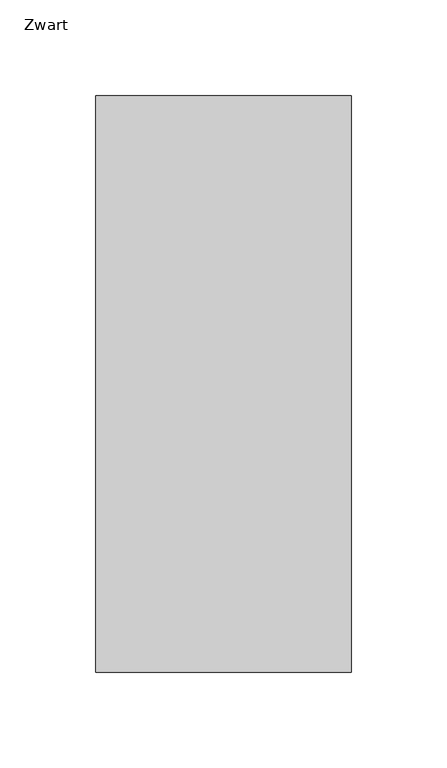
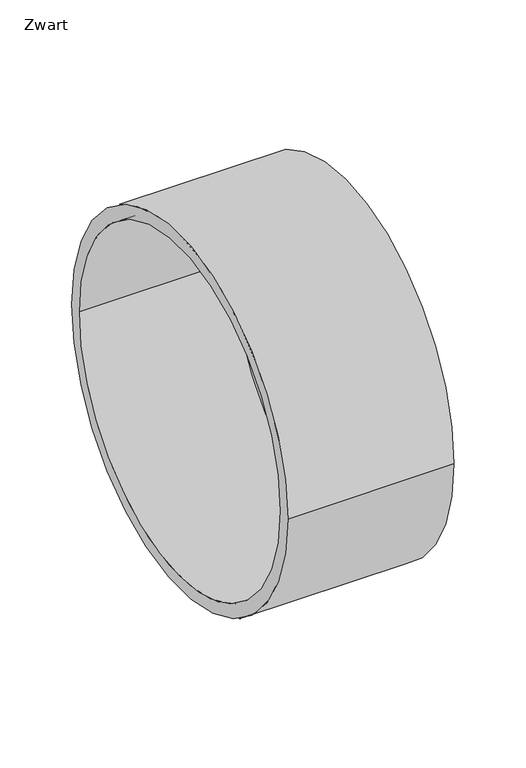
"""IFC4 building model written with IfcOpenShell, lengths in millimetres: pipe fitting geometry, NLRS_52_PIF_UN_Ultra Kyma afsluitkap LV_Dyka : Zwart."""

from ifc_helpers import new_model, si_unit, frame, origin, place, context, project, spatial, polyline, circle_curve, source, transform, mapped, element, save
from ifc_brep_helpers import plane_surface, cylinder_surface, revolved_surface, advanced_brep


def zwart_ccf00192(model_context):
    return source(origin(), model_context, "Body", "AdvancedBrep", [
        advanced_brep(
        [(0.0, -140.0, 0.0), (0.0, 140.0, 0.0), (-124.0, 140.0, 0.0), (-124.0, -140.0, 0.0), (10.0, -151.0, 0.0), (10.0, 151.0, 0.0), (-124.0, -151.0, 0.0), (-124.0, 151.0, 0.0)],
        [
            (0, 1, circle_curve(frame((0.0, 0.0, 0.0), z_axis=(-1.0, 0.0, 0.0), x_axis=(0.0, 1.0, 0.0)), 140.0)),
            (1, 0, circle_curve(frame((0.0, 0.0, 0.0), z_axis=(-1.0, 0.0, 0.0), x_axis=(0.0, 1.0, 0.0)), 140.0)),
            (1, 2),
            (2, 3, circle_curve(frame((-124.0, 0.0, 0.0), z_axis=(-1.0, 0.0, 0.0), x_axis=(0.0, 1.0, 0.0)), 140.0)),
            (3, 0),
            (3, 2, circle_curve(frame((-124.0, 0.0, 0.0), z_axis=(-1.0, 0.0, 0.0), x_axis=(0.0, 1.0, 0.0)), 140.0)),
            (4, 5, circle_curve(frame((10.0, 0.0, 0.0), z_axis=(1.0, 0.0, 0.0), x_axis=(0.0, 1.0, 0.0)), 151.0)),
            (5, 4, circle_curve(frame((10.0, 0.0, 0.0), z_axis=(1.0, 0.0, 0.0), x_axis=(0.0, 1.0, 0.0)), 151.0)),
            (6, 7, circle_curve(frame((-124.0, 0.0, 0.0), z_axis=(-1.0, 0.0, 0.0), x_axis=(0.0, 1.0, 0.0)), 151.0)),
            (7, 6, circle_curve(frame((-124.0, 0.0, 0.0), z_axis=(-1.0, 0.0, 0.0), x_axis=(0.0, 1.0, 0.0)), 151.0)),
            (4, 6),
            (7, 5),
        ],
        [
            plane_surface(frame((0.0, 140.0, 0.0), z_axis=(-1.0, 0.0, 0.0), x_axis=(0.0, 0.0, 1.0))),
            revolved_surface(polyline([(0.0, 140.0, 0.0), (-124.0, 140.0, 0.0)]), (-124.0, 0.0, 0.0), (1.0, 0.0, 0.0)),
            plane_surface(frame((10.0, 151.0, 0.0), z_axis=(1.0, 0.0, 0.0), x_axis=(0.0, 0.0, 1.0))),
            plane_surface(frame((-124.0, 151.0, 0.0), z_axis=(-1.0, 0.0, 0.0), x_axis=(0.0, 0.0, -1.0))),
            cylinder_surface(frame((-124.0, 0.0, 0.0), z_axis=(1.0, 0.0, 0.0), x_axis=(0.0, 1.0, 0.0)), 151.0),
        ],
        [
            (0, [[1, 2]]),
            (1, [[-2, 3, 4, 5]]),
            (1, [[-1, -5, 6, -3]]),
            (2, [[7, 8]]),
            (3, [[9, 10], [-4, -6]]),
            (4, [[-7, 11, -10, 12]]),
            (4, [[-8, -12, -9, -11]]),
        ],
    ),
    ])


if __name__ == "__main__":
    model = new_model("IFC4")
    model_context = context("Model", 3, world=origin())
    ifc_project = project(units=[si_unit("LENGTHUNIT", "METRE", prefix="MILLI")], contexts=[model_context])
    site = spatial("IfcSite", under=ifc_project)
    building = spatial("IfcBuilding", under=site)
    placement = place(None, origin())
    zwart_shape = zwart_ccf00192(model_context)
    element("IfcPipeFitting", 1, ObjectType="NLRS_52_PIF_UN_Ultra Kyma afsluitkap LV_Dyka : Zwart", at=placement, inside=building, context=model_context, shape_type="MappedRepresentation", body=[
        mapped(zwart_shape, transform((0.0, 0.0, 0.0), x_axis=(1.0, 0.0, 0.0), y_axis=(0.0, 1.0, 0.0), z_axis=(0.0, 0.0, 1.0))),
    ])
    save(model, "model.ifc")
